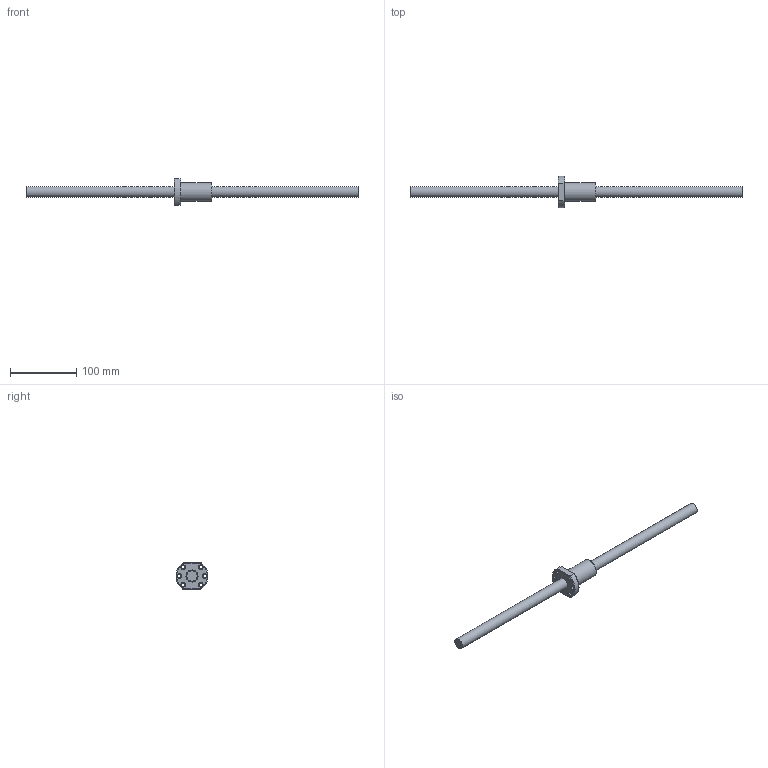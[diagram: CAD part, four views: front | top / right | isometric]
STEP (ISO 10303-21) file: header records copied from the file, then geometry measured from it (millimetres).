
FILE_DESCRIPTION (( 'STEP AP203' ), '1' );
FILE_NAME ('SFNU01610D-3.step', '2024-05-14T06:34:12', ( '' ), ( '' ), 'SwSTEP 2.0', 'SolidWorks 2022', '' );
FILE_SCHEMA (( 'CONFIG_CONTROL_DESIGN' ));
Length unit declared in the file: millimetre
Products named in the file (1): SFNU01610D-3
Bounding box: 500 x 48 x 40 mm (x, y, z)
Volume: 129574.4 mm3; surface area: 37947.3 mm2
Topology: 2 solids, 2 shells, 54 faces, 139 edges, 90 vertices
Faces by surface type: cylinder 19, cone 13, plane 12, bspline 5, torus 5
Full cylindrical faces by diameter (mm): 4 x1, 5 x6, 5.5 x6, 16 x1, 18.1 x1, 28 x1
Entity records: 3159 total; most frequent: CARTESIAN_POINT 2123, DIRECTION 186, ORIENTED_EDGE 166, EDGE_LOOP 90, AXIS2_PLACEMENT_3D 85, EDGE_CURVE 83, VERTEX_POINT 67, FACE_OUTER_BOUND 60
